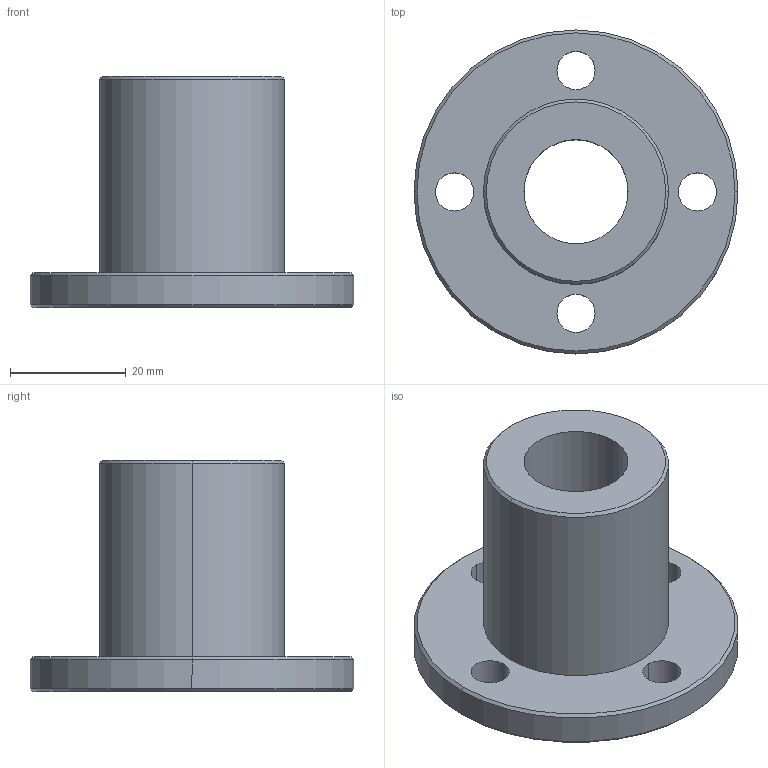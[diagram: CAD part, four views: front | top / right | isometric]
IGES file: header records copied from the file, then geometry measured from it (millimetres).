
Start section: 3D InterOp IGES (Version 21 0 1), Spatial Corp. Copyright (c) 1999-2007.
Global section: file name: TMFON-18R.igs; native system: Spatial Corp.; preprocessor: 3D InterOp GENERIC/IGES 3.0; author: Noname; organization: Noname; date: 20220208.143648; units: millimetre
Bounding box: 56 x 56 x 40 mm (x, y, z)
Surface area: 11243.1 mm2 (no closed solid volume)
Topology: 0 solids, 0 shells, 23 faces, 108 edges, 108 vertices
Faces by surface type: revolution 20, extrusion 3
